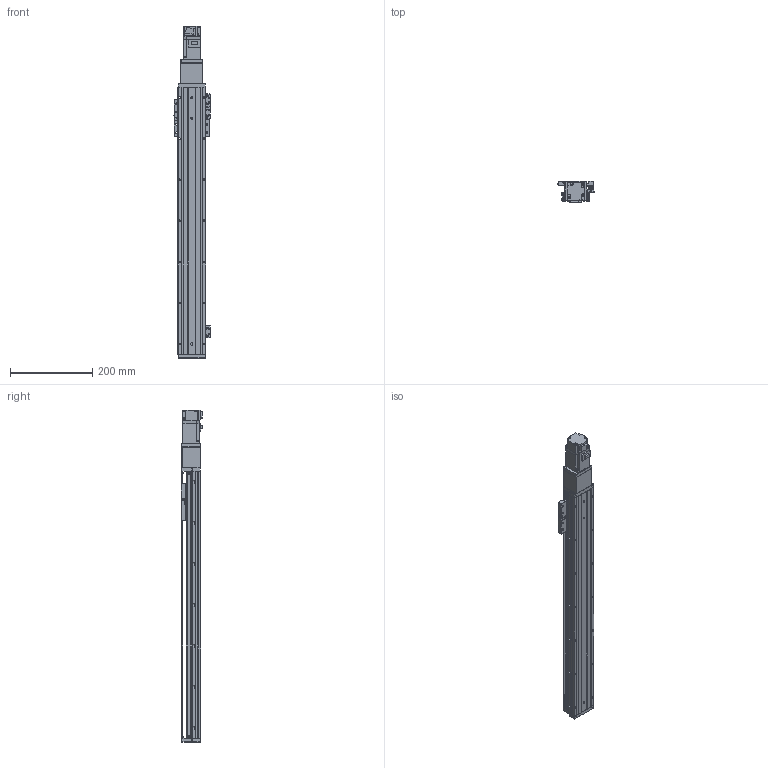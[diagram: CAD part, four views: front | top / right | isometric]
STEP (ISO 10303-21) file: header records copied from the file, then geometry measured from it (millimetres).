
FILE_DESCRIPTION (( 'STEP AP203' ), '1' );
FILE_NAME ('KTHAL60-500-BC-M10-C4L.step', '2022-03-19T08:35:24', ( '微软用户' ), ( '微软中国' ), 'SwSTEP 2.0', 'SolidWorks 2020', '' );
FILE_SCHEMA (( 'CONFIG_CONTROL_DESIGN' ));
Length unit declared in the file: millimetre
Products named in the file (18): KTHA60-001_650; CTHA60-017; CTHA60-027; KTHLA60-002; CTHA60-021; CTHA60-013; KTHA60-004; GBT 70.1-M4×16; HG-KR13（三菱）; KTHA60-005; GBT77-2000M3-3; KTHAL60-500-BC-M10-C4L; GB¨uT 70.2-M3¡Á5_M3¡Á6; GBT 70.1-M3℅6; GBT 70.3-M3℅6; CTHA60-016; EE_SX911P_R; CTHA60-006-2_CTHA60-006-2
Assembly tree (50 placements, depth 2):
  KTHAL60-500-BC-M10-C4L
    KTHA60-001_650
    KTHLA60-002
    KTHA60-004
    KTHA60-005
    GB¨uT 70.2-M3¡Á5_M3¡Á6  x5
    GBT 70.3-M3℅6  x6
    EE_SX911P_R  x3
    CTHA60-017  x3
    CTHA60-021  x2
    GBT 70.1-M4×16  x10
    GBT77-2000M3-3  x6
    GBT 70.1-M3℅6  x6
    CTHA60-016
    CTHA60-006-2_CTHA60-006-2
    CTHA60-027
    CTHA60-013
    HG-KR13（三菱）
Bounding box: 87.82 x 53.3 x 808.6 mm (x, y, z)
Volume: 1442692.6 mm3; surface area: 375484.2 mm2
Topology: 53 solids, 53 shells, 2200 faces, 5218 edges, 3201 vertices
Faces by surface type: plane 1282, cylinder 525, cone 293, torus 86, sphere 14
Entity records: 36712 total; most frequent: CARTESIAN_POINT 6026, DIRECTION 5910, ORIENTED_EDGE 5640, EDGE_CURVE 2820, VECTOR 2012, LINE 2012, AXIS2_PLACEMENT_3D 1949, VERTEX_POINT 1769
